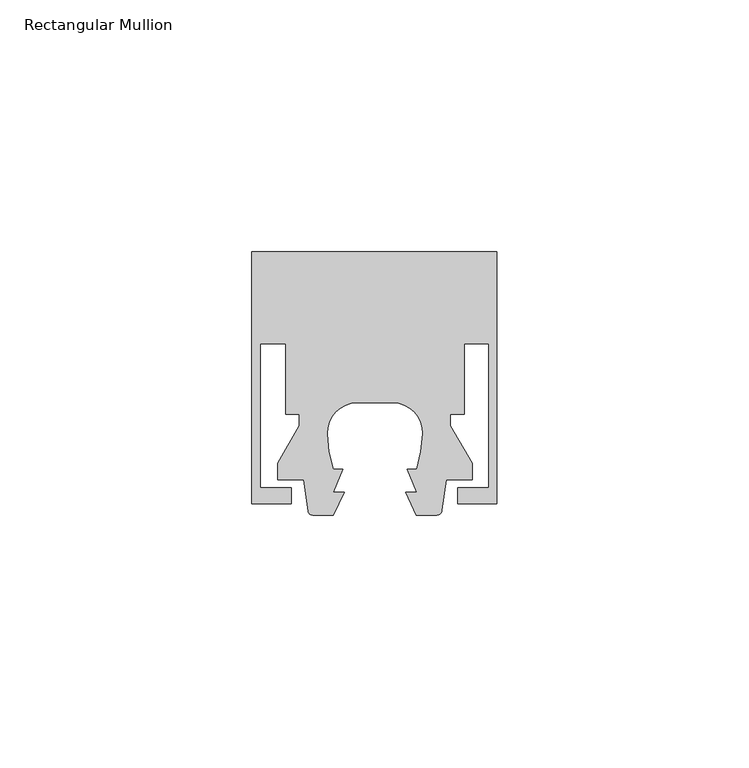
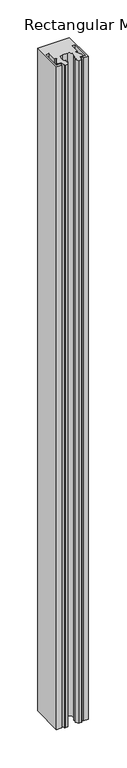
"""IFC4 building model written with IfcOpenShell, lengths in millimetres: member geometry, Rectangular Mullion : Danpal_Airpt."""

from ifc_helpers import new_model, si_unit, point, frame, frame_2d, origin, place, context, project, spatial, polyline, circle_curve, trimmed, segment, composite_curve, outline, extrude, source, transform, mapped, element, save


def rectangular_mullion_bf5c6ae6(model_context):
    return source(origin(), model_context, "Body", "SweptSolid", [
        extrude(outline(composite_curve([segment(polyline([(-16.6, 16.4), (-24.4, 16.4), (-24.4, 66.4), (24.2, 66.4), (24.2, 16.4), (16.4, 16.4), (16.4, 19.6), (22.6, 19.6), (22.6, 48.2), (17.7185077, 48.2), (17.7185077, 34.2), (14.9766663, 34.2), (14.9766663, 31.9202845), (19.2732051, 24.478461), (19.3, 21.2), (14.115585, 21.2)]), True, "CONTINUOUS"), segment(trimmed(circle_curve(frame_2d((-137.1078499, 38.5534788)), 152.215868), [point((14.115585, 21.2))], [point((13.2922905, 15.1127399))], False, "CARTESIAN"), True, "CONTINUOUS"), segment(trimmed(circle_curve(frame_2d((12.2262756, 15.2788845)), 1.0788845), [point((13.2922905, 15.1127399))], [point((12.2262756, 14.2))], False, "CARTESIAN"), True, "CONTINUOUS"), segment(polyline([(12.2262756, 14.2), (8.2308667, 14.2), (6.0782659, 18.7006239), (8.2858815, 18.7006239), (6.3614697, 23.2699289), (8.2778534, 23.2699289)]), True, "CONTINUOUS"), segment(trimmed(circle_curve(frame_2d((-16.4332098, 31.142799)), 25.9348941), [point((8.2778534, 23.2699289))], [point((9.488241, 30.3078647))], True, "CARTESIAN"), True, "CONTINUOUS"), segment(trimmed(circle_curve(frame_2d((3.5093751, 30.500445)), 5.9819667), [point((9.488241, 30.3078647))], [point((3.5093751, 36.4824117))], True, "CARTESIAN"), True, "CONTINUOUS"), segment(polyline([(3.5093751, 36.4824117), (-3.5093751, 36.4824117)]), True, "CONTINUOUS"), segment(trimmed(circle_curve(frame_2d((-3.5093751, 30.500445)), 5.9819667), [point((-3.5093751, 36.4824117))], [point((-9.488241, 30.3078647))], True, "CARTESIAN"), True, "CONTINUOUS"), segment(trimmed(circle_curve(frame_2d((16.4332098, 31.142799)), 25.9348941), [point((-9.488241, 30.3078647))], [point((-8.2778534, 23.2699289))], True, "CARTESIAN"), True, "CONTINUOUS"), segment(polyline([(-8.2778534, 23.2699289), (-6.3614697, 23.2699289), (-8.2858815, 18.7006239), (-6.0782659, 18.7006239), (-8.2308667, 14.2), (-12.3738214, 14.2)]), True, "CONTINUOUS"), segment(trimmed(circle_curve(frame_2d((-12.3738214, 15.1064765)), 0.9064765), [point((-12.3738214, 14.2))], [point((-13.2693482, 14.9660083))], False, "CARTESIAN"), True, "CONTINUOUS"), segment(trimmed(circle_curve(frame_2d((137.1078499, 38.5534788)), 152.215868), [point((-13.2693482, 14.9660083))], [point((-14.115585, 21.2))], False, "CARTESIAN"), True, "CONTINUOUS"), segment(polyline([(-14.115585, 21.2), (-19.3, 21.2), (-19.2732051, 24.478461), (-14.9766663, 31.9202845), (-14.9766663, 34.2), (-17.7185077, 34.2), (-17.7185077, 48.2), (-22.8, 48.2), (-22.8, 19.6), (-16.6, 19.6), (-16.6, 16.4)]), True, "CONTINUOUS")], self_intersect=False)), frame((0.0, 0.0, -1075.3470765), z_axis=(0.0, 0.0, 1.0), x_axis=(1.0, 0.0, 0.0)), (0.0, 0.0, 1.0), 1075.3470765),
    ])


if __name__ == "__main__":
    model = new_model("IFC4")
    model_context = context("Model", 3, world=origin())
    ifc_project = project(units=[si_unit("LENGTHUNIT", "METRE", prefix="MILLI")], contexts=[model_context])
    site = spatial("IfcSite", under=ifc_project)
    building = spatial("IfcBuilding", under=site)
    placement = place(None, origin())
    rectangular_mullion_shape = rectangular_mullion_bf5c6ae6(model_context)
    element("IfcMember", 1, ObjectType="Rectangular Mullion : Danpal_Airpt", at=placement, inside=building, context=model_context, shape_type="MappedRepresentation", body=[
        mapped(rectangular_mullion_shape, transform((0.0, 0.0, 0.0), x_axis=(1.0, 0.0, 0.0), y_axis=(0.0, 1.0, 0.0), z_axis=(0.0, 0.0, 1.0))),
    ])
    save(model, "model.ifc")
